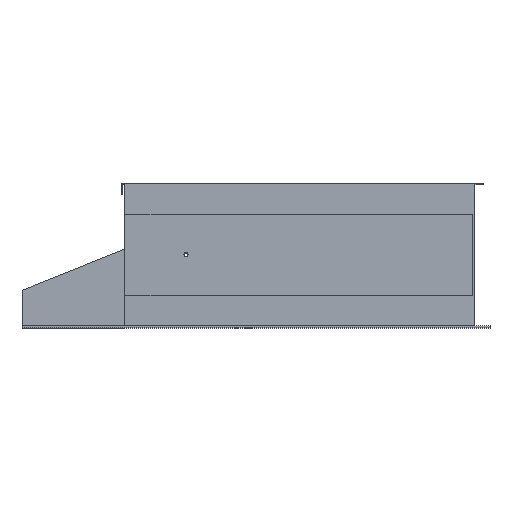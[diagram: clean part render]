
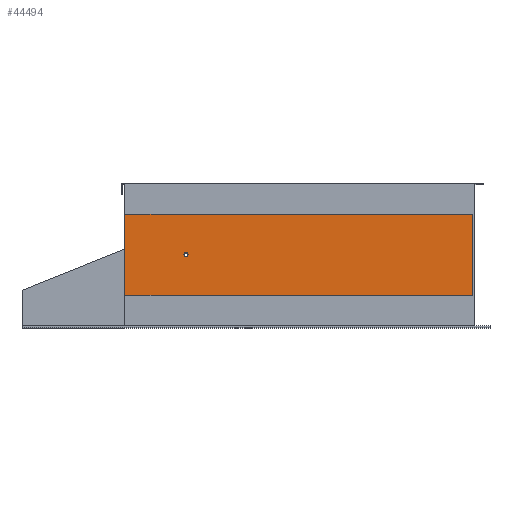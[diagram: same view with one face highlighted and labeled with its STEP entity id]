
A CAD part, top view. The second image highlights one B-rep face of the part: STEP entity #44494.
In plain terms, the highlighted planar face has unit normal (0, 0, 1).
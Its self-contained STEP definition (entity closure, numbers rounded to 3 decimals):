
#1501 = DIRECTION ( 'NONE',  ( 0., -1., 0. ) ) ;
#3498 = PLANE ( 'NONE',  #22328 ) ;
#3739 = CARTESIAN_POINT ( 'NONE',  ( 408., 180., 425. ) ) ;
#4221 = VERTEX_POINT ( 'NONE', #29769 ) ;
#4773 = CARTESIAN_POINT ( 'NONE',  ( 1107., 79., 425. ) ) ;
#4924 = ORIENTED_EDGE ( 'NONE', *, *, #27820, .F. ) ;
#5895 = AXIS2_PLACEMENT_3D ( 'NONE', #18915, #49858, #23502 ) ;
#6172 = VERTEX_POINT ( 'NONE', #3739 ) ;
#6407 = ORIENTED_EDGE ( 'NONE', *, *, #6588, .F. ) ;
#6588 = EDGE_CURVE ( 'NONE', #53267, #6172, #33423, .T. ) ;
#7077 = LINE ( 'NONE', #11602, #51737 ) ;
#7534 = ORIENTED_EDGE ( 'NONE', *, *, #39182, .T. ) ;
#8132 = CARTESIAN_POINT ( 'NONE',  ( 0., 0., 425. ) ) ;
#8874 = ORIENTED_EDGE ( 'NONE', *, *, #24838, .T. ) ;
#10102 = ORIENTED_EDGE ( 'NONE', *, *, #25613, .T. ) ;
#11490 = ORIENTED_EDGE ( 'NONE', *, *, #27468, .T. ) ;
#11602 = CARTESIAN_POINT ( 'NONE',  ( 1107., 79., 425. ) ) ;
#12155 = VECTOR ( 'NONE', #49732, 1000. ) ;
#16996 = CARTESIAN_POINT ( 'NONE',  ( 253., 279., 425. ) ) ;
#17059 = LINE ( 'NONE', #46103, #26274 ) ;
#17319 = DIRECTION ( 'NONE',  ( 1., 0., 0. ) ) ;
#18915 = CARTESIAN_POINT ( 'NONE',  ( 403., 180., 425. ) ) ;
#19721 = CARTESIAN_POINT ( 'NONE',  ( 253., 79., 425. ) ) ;
#20804 = DIRECTION ( 'NONE',  ( 1., 0., 0. ) ) ;
#22328 = AXIS2_PLACEMENT_3D ( 'NONE', #8132, #43944, #17319 ) ;
#23502 = DIRECTION ( 'NONE',  ( 1., 0., 0. ) ) ;
#24838 = EDGE_CURVE ( 'NONE', #56800, #44272, #7077, .T. ) ;
#25613 = EDGE_CURVE ( 'NONE', #44272, #4221, #46306, .T. ) ;
#26274 = VECTOR ( 'NONE', #37329, 1000. ) ;
#27468 = EDGE_CURVE ( 'NONE', #4221, #42473, #17059, .T. ) ;
#27820 = EDGE_CURVE ( 'NONE', #6172, #53267, #28331, .T. ) ;
#28331 = CIRCLE ( 'NONE', #5895, 5. ) ;
#29071 = CARTESIAN_POINT ( 'NONE',  ( 398., 180., 425. ) ) ;
#29569 = CARTESIAN_POINT ( 'NONE',  ( 253., 79., 425. ) ) ;
#29769 = CARTESIAN_POINT ( 'NONE',  ( 1107., 279., 425. ) ) ;
#33423 = CIRCLE ( 'NONE', #38623, 5. ) ;
#33599 = LINE ( 'NONE', #19721, #55481 ) ;
#37329 = DIRECTION ( 'NONE',  ( -1., 0., 0. ) ) ;
#38623 = AXIS2_PLACEMENT_3D ( 'NONE', #47180, #47109, #47060 ) ;
#39182 = EDGE_CURVE ( 'NONE', #42473, #56800, #33599, .T. ) ;
#40854 = EDGE_LOOP ( 'NONE', ( #7534, #8874, #10102, #11490 ) ) ;
#42473 = VERTEX_POINT ( 'NONE', #16996 ) ;
#43944 = DIRECTION ( 'NONE',  ( 0., 0., 1. ) ) ;
#44272 = VERTEX_POINT ( 'NONE', #45890 ) ;
#44494 = ADVANCED_FACE ( 'NONE', ( #51817, #53210 ), #3498, .T. ) ;
#45890 = CARTESIAN_POINT ( 'NONE',  ( 1107., 79., 425. ) ) ;
#46103 = CARTESIAN_POINT ( 'NONE',  ( 1107., 279., 425. ) ) ;
#46306 = LINE ( 'NONE', #4773, #12155 ) ;
#47060 = DIRECTION ( 'NONE',  ( 1., 0., 0. ) ) ;
#47109 = DIRECTION ( 'NONE',  ( 0., 0., 1. ) ) ;
#47180 = CARTESIAN_POINT ( 'NONE',  ( 403., 180., 425. ) ) ;
#49732 = DIRECTION ( 'NONE',  ( 0., 1., 0. ) ) ;
#49858 = DIRECTION ( 'NONE',  ( 0., 0., 1. ) ) ;
#51737 = VECTOR ( 'NONE', #20804, 1000. ) ;
#51817 = FACE_BOUND ( 'NONE', #55213, .T. ) ;
#53210 = FACE_OUTER_BOUND ( 'NONE', #40854, .T. ) ;
#53267 = VERTEX_POINT ( 'NONE', #29071 ) ;
#55213 = EDGE_LOOP ( 'NONE', ( #4924, #6407 ) ) ;
#55481 = VECTOR ( 'NONE', #1501, 1000. ) ;
#56800 = VERTEX_POINT ( 'NONE', #29569 ) ;
